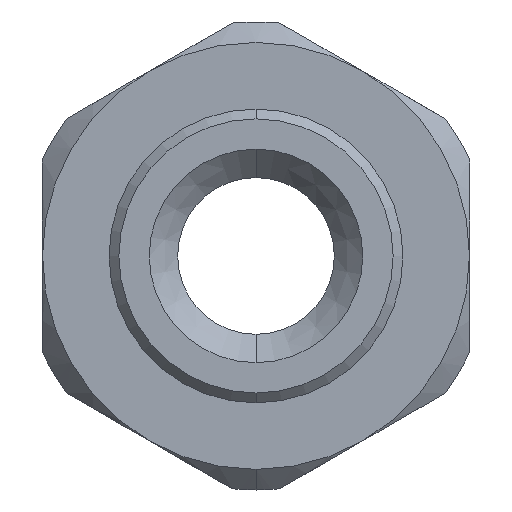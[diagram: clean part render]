
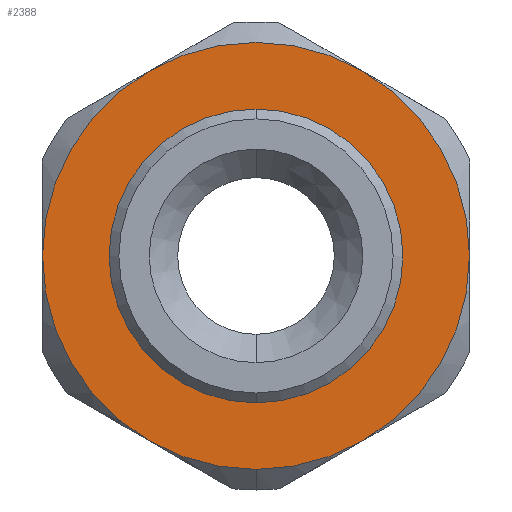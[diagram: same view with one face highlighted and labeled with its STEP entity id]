
A CAD part, front view. The second image highlights one B-rep face of the part: STEP entity #2388.
In plain terms, the highlighted planar face has unit normal (0, -1, 0).
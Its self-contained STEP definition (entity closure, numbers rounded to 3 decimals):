
#20 = AXIS2_PLACEMENT_3D ( 'NONE', #713, #714, #715 ) ;
#133 = AXIS2_PLACEMENT_3D ( 'NONE', #832, #842, #843 ) ;
#158 = EDGE_CURVE ( 'NONE', #375, #398, #303, .T. ) ;
#159 = EDGE_CURVE ( 'NONE', #377, #375, #2316, .T. ) ;
#160 = EDGE_CURVE ( 'NONE', #428, #377, #2317, .T. ) ;
#161 = EDGE_CURVE ( 'NONE', #364, #380, #2318, .T. ) ;
#162 = EDGE_CURVE ( 'NONE', #410, #425, #2319, .T. ) ;
#163 = EDGE_CURVE ( 'NONE', #380, #428, #2315, .T. ) ;
#217 = EDGE_CURVE ( 'NONE', #398, #400, #2294, .T. ) ;
#258 = EDGE_CURVE ( 'NONE', #425, #410, #2244, .T. ) ;
#303 = CIRCLE ( 'NONE', #317, 10.9 ) ;
#313 = AXIS2_PLACEMENT_3D ( 'NONE', #495, #496, #497 ) ;
#316 = AXIS2_PLACEMENT_3D ( 'NONE', #483, #484, #485 ) ;
#317 = AXIS2_PLACEMENT_3D ( 'NONE', #480, #481, #482 ) ;
#318 = AXIS2_PLACEMENT_3D ( 'NONE', #489, #490, #491 ) ;
#319 = AXIS2_PLACEMENT_3D ( 'NONE', #492, #493, #494 ) ;
#320 = AXIS2_PLACEMENT_3D ( 'NONE', #486, #487, #488 ) ;
#364 = VERTEX_POINT ( 'NONE', #1593 ) ;
#375 = VERTEX_POINT ( 'NONE', #1603 ) ;
#377 = VERTEX_POINT ( 'NONE', #1605 ) ;
#380 = VERTEX_POINT ( 'NONE', #1608 ) ;
#398 = VERTEX_POINT ( 'NONE', #1626 ) ;
#400 = VERTEX_POINT ( 'NONE', #1628 ) ;
#410 = VERTEX_POINT ( 'NONE', #1638 ) ;
#425 = VERTEX_POINT ( 'NONE', #1653 ) ;
#428 = VERTEX_POINT ( 'NONE', #1656 ) ;
#480 = CARTESIAN_POINT ( 'NONE',  ( 0., 1., 0. ) ) ;
#481 = DIRECTION ( 'NONE',  ( 0., -1., 0. ) ) ;
#482 = DIRECTION ( 'NONE',  ( 0., 0., -1. ) ) ;
#483 = CARTESIAN_POINT ( 'NONE',  ( 0., 1., 0. ) ) ;
#484 = DIRECTION ( 'NONE',  ( 0., -1., 0. ) ) ;
#485 = DIRECTION ( 'NONE',  ( 0., 0., -1. ) ) ;
#486 = CARTESIAN_POINT ( 'NONE',  ( 0., 1., 0. ) ) ;
#487 = DIRECTION ( 'NONE',  ( 0., -1., 0. ) ) ;
#488 = DIRECTION ( 'NONE',  ( 0., 0., -1. ) ) ;
#489 = CARTESIAN_POINT ( 'NONE',  ( 0., 1., 0. ) ) ;
#490 = DIRECTION ( 'NONE',  ( 0., -1., 0. ) ) ;
#491 = DIRECTION ( 'NONE',  ( 0., 0., -1. ) ) ;
#492 = CARTESIAN_POINT ( 'NONE',  ( 0., 1., 0. ) ) ;
#493 = DIRECTION ( 'NONE',  ( 0., -1., 0. ) ) ;
#494 = DIRECTION ( 'NONE',  ( 0., 0., -1. ) ) ;
#495 = CARTESIAN_POINT ( 'NONE',  ( 0., 1., 0. ) ) ;
#496 = DIRECTION ( 'NONE',  ( 0., -1., 0. ) ) ;
#497 = DIRECTION ( 'NONE',  ( 0., 0., -1. ) ) ;
#713 = CARTESIAN_POINT ( 'NONE',  ( 0., 1., 0. ) ) ;
#714 = DIRECTION ( 'NONE',  ( 0., -1., 0. ) ) ;
#715 = DIRECTION ( 'NONE',  ( 0., 0., -1. ) ) ;
#832 = CARTESIAN_POINT ( 'NONE',  ( 0., 1., 0. ) ) ;
#842 = DIRECTION ( 'NONE',  ( 0., -1., 0. ) ) ;
#843 = DIRECTION ( 'NONE',  ( 0., 0., -1. ) ) ;
#1192 = EDGE_LOOP ( 'NONE', ( #1333, #1334 ) ) ;
#1193 = EDGE_LOOP ( 'NONE', ( #1335, #1337, #1336, #1338, #1339, #1340, #1341 ) ) ;
#1333 = ORIENTED_EDGE ( 'NONE', *, *, #258, .F. ) ;
#1334 = ORIENTED_EDGE ( 'NONE', *, *, #162, .F. ) ;
#1335 = ORIENTED_EDGE ( 'NONE', *, *, #161, .T. ) ;
#1336 = ORIENTED_EDGE ( 'NONE', *, *, #160, .T. ) ;
#1337 = ORIENTED_EDGE ( 'NONE', *, *, #163, .T. ) ;
#1338 = ORIENTED_EDGE ( 'NONE', *, *, #159, .T. ) ;
#1339 = ORIENTED_EDGE ( 'NONE', *, *, #158, .T. ) ;
#1340 = ORIENTED_EDGE ( 'NONE', *, *, #217, .T. ) ;
#1341 = ORIENTED_EDGE ( 'NONE', *, *, #2277, .T. ) ;
#1420 = FACE_OUTER_BOUND ( 'NONE', #1193, .T. ) ;
#1485 = FACE_BOUND ( 'NONE', #1192, .T. ) ;
#1490 = AXIS2_PLACEMENT_3D ( 'NONE', #1929, #1930, #1931 ) ;
#1593 = CARTESIAN_POINT ( 'NONE',  ( 10.9, 1., 0. ) ) ;
#1603 = CARTESIAN_POINT ( 'NONE',  ( -5.45, 1., -9.44 ) ) ;
#1605 = CARTESIAN_POINT ( 'NONE',  ( -10.9, 1., 0. ) ) ;
#1608 = CARTESIAN_POINT ( 'NONE',  ( 5.45, 1., 9.44 ) ) ;
#1626 = CARTESIAN_POINT ( 'NONE',  ( 0., 1., -10.9 ) ) ;
#1628 = CARTESIAN_POINT ( 'NONE',  ( 5.45, 1., -9.44 ) ) ;
#1638 = CARTESIAN_POINT ( 'NONE',  ( 0., 1., 7.5 ) ) ;
#1653 = CARTESIAN_POINT ( 'NONE',  ( 0., 1., -7.5 ) ) ;
#1656 = CARTESIAN_POINT ( 'NONE',  ( -5.45, 1., 9.44 ) ) ;
#1706 = CARTESIAN_POINT ( 'NONE',  ( 0., 1., 0. ) ) ;
#1707 = DIRECTION ( 'NONE',  ( 0., -1., 0. ) ) ;
#1708 = DIRECTION ( 'NONE',  ( 0., 0., -1. ) ) ;
#1928 = PLANE ( 'NONE',  #1490 ) ;
#1929 = CARTESIAN_POINT ( 'NONE',  ( -11.95, 1., 0. ) ) ;
#1930 = DIRECTION ( 'NONE',  ( 0., 1., 0. ) ) ;
#1931 = DIRECTION ( 'NONE',  ( 0., 0., 1. ) ) ;
#2143 = AXIS2_PLACEMENT_3D ( 'NONE', #1706, #1707, #1708 ) ;
#2244 = CIRCLE ( 'NONE', #133, 7.5 ) ;
#2254 = CIRCLE ( 'NONE', #2143, 10.9 ) ;
#2277 = EDGE_CURVE ( 'NONE', #400, #364, #2254, .T. ) ;
#2294 = CIRCLE ( 'NONE', #20, 10.9 ) ;
#2315 = CIRCLE ( 'NONE', #313, 10.9 ) ;
#2316 = CIRCLE ( 'NONE', #316, 10.9 ) ;
#2317 = CIRCLE ( 'NONE', #320, 10.9 ) ;
#2318 = CIRCLE ( 'NONE', #318, 10.9 ) ;
#2319 = CIRCLE ( 'NONE', #319, 7.5 ) ;
#2388 = ADVANCED_FACE ( 'NONE', ( #1485, #1420 ), #1928, .F. ) ;
